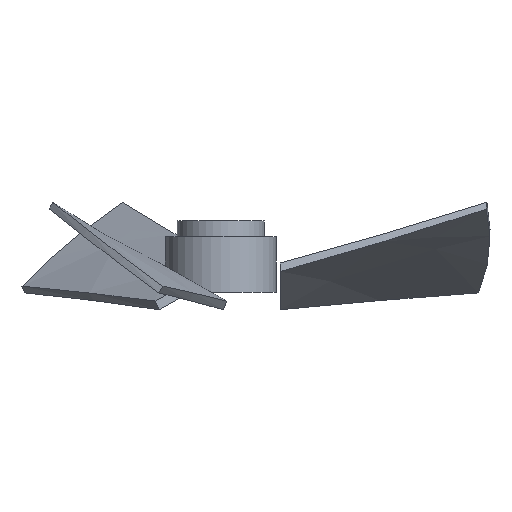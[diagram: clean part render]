
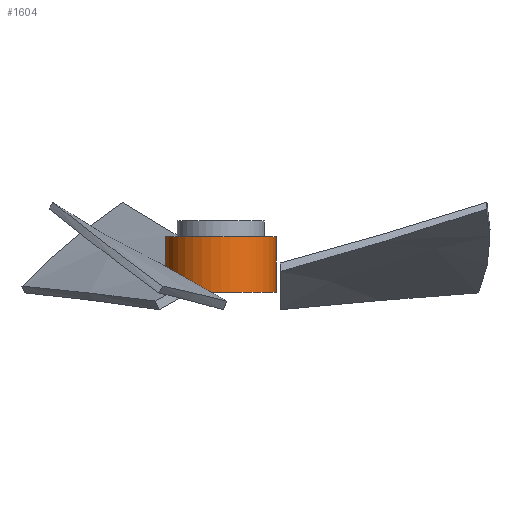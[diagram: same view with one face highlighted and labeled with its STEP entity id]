
A CAD part, front view. The second image highlights one B-rep face of the part: STEP entity #1604.
In plain terms, the highlighted cylindrical face has radius 14 mm (diameter 28 mm), a full revolution.
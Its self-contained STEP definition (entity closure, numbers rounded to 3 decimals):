
#1468 = PLANE('',#1469);
#1469 = AXIS2_PLACEMENT_3D('',#1470,#1471,#1472);
#1470 = CARTESIAN_POINT('',(0.,0.,21.5)
  );
#1471 = DIRECTION('',(0.,0.,1.));
#1472 = DIRECTION('',(1.,0.,0.));
#1557 = PLANE('',#1558);
#1558 = AXIS2_PLACEMENT_3D('',#1559,#1560,#1561);
#1559 = CARTESIAN_POINT('',(0.,0.,7.5)
  );
#1560 = DIRECTION('',(0.,0.,1.));
#1561 = DIRECTION('',(1.,0.,0.));
#1573 = EDGE_CURVE('',#1574,#1574,#1576,.T.);
#1574 = VERTEX_POINT('',#1575);
#1575 = CARTESIAN_POINT('',(14.,0.,7.5));
#1576 = SURFACE_CURVE('',#1577,(#1582,#1589),.PCURVE_S1.);
#1577 = CIRCLE('',#1578,14.);
#1578 = AXIS2_PLACEMENT_3D('',#1579,#1580,#1581);
#1579 = CARTESIAN_POINT('',(0.,0.,7.5));
#1580 = DIRECTION('',(0.,0.,1.));
#1581 = DIRECTION('',(1.,0.,0.));
#1582 = PCURVE('',#1557,#1583);
#1583 = DEFINITIONAL_REPRESENTATION('',(#1584),#1588);
#1584 = CIRCLE('',#1585,14.);
#1585 = AXIS2_PLACEMENT_2D('',#1586,#1587);
#1586 = CARTESIAN_POINT('',(0.,0.));
#1587 = DIRECTION('',(1.,0.));
#1588 = ( GEOMETRIC_REPRESENTATION_CONTEXT(2) 
PARAMETRIC_REPRESENTATION_CONTEXT() REPRESENTATION_CONTEXT('2D SPACE',''
  ) );
#1589 = PCURVE('',#1590,#1595);
#1590 = CYLINDRICAL_SURFACE('',#1591,14.);
#1591 = AXIS2_PLACEMENT_3D('',#1592,#1593,#1594);
#1592 = CARTESIAN_POINT('',(0.,0.,7.5));
#1593 = DIRECTION('',(-0.,-0.,-1.));
#1594 = DIRECTION('',(1.,0.,0.));
#1595 = DEFINITIONAL_REPRESENTATION('',(#1596),#1600);
#1596 = LINE('',#1597,#1598);
#1597 = CARTESIAN_POINT('',(-0.,0.));
#1598 = VECTOR('',#1599,1.);
#1599 = DIRECTION('',(-1.,0.));
#1600 = ( GEOMETRIC_REPRESENTATION_CONTEXT(2) 
PARAMETRIC_REPRESENTATION_CONTEXT() REPRESENTATION_CONTEXT('2D SPACE',''
  ) );
#1604 = ADVANCED_FACE('',(#1605),#1590,.T.);
#1605 = FACE_BOUND('',#1606,.F.);
#1606 = EDGE_LOOP('',(#1607,#1630,#1652,#1653));
#1607 = ORIENTED_EDGE('',*,*,#1608,.T.);
#1608 = EDGE_CURVE('',#1574,#1609,#1611,.T.);
#1609 = VERTEX_POINT('',#1610);
#1610 = CARTESIAN_POINT('',(14.,0.,21.5));
#1611 = SEAM_CURVE('',#1612,(#1616,#1623),.PCURVE_S1.);
#1612 = LINE('',#1613,#1614);
#1613 = CARTESIAN_POINT('',(14.,0.,7.5));
#1614 = VECTOR('',#1615,1.);
#1615 = DIRECTION('',(0.,0.,1.));
#1616 = PCURVE('',#1590,#1617);
#1617 = DEFINITIONAL_REPRESENTATION('',(#1618),#1622);
#1618 = LINE('',#1619,#1620);
#1619 = CARTESIAN_POINT('',(-0.,0.));
#1620 = VECTOR('',#1621,1.);
#1621 = DIRECTION('',(-0.,-1.));
#1622 = ( GEOMETRIC_REPRESENTATION_CONTEXT(2) 
PARAMETRIC_REPRESENTATION_CONTEXT() REPRESENTATION_CONTEXT('2D SPACE',''
  ) );
#1623 = PCURVE('',#1590,#1624);
#1624 = DEFINITIONAL_REPRESENTATION('',(#1625),#1629);
#1625 = LINE('',#1626,#1627);
#1626 = CARTESIAN_POINT('',(-6.283,0.));
#1627 = VECTOR('',#1628,1.);
#1628 = DIRECTION('',(-0.,-1.));
#1629 = ( GEOMETRIC_REPRESENTATION_CONTEXT(2) 
PARAMETRIC_REPRESENTATION_CONTEXT() REPRESENTATION_CONTEXT('2D SPACE',''
  ) );
#1630 = ORIENTED_EDGE('',*,*,#1631,.T.);
#1631 = EDGE_CURVE('',#1609,#1609,#1632,.T.);
#1632 = SURFACE_CURVE('',#1633,(#1638,#1645),.PCURVE_S1.);
#1633 = CIRCLE('',#1634,14.);
#1634 = AXIS2_PLACEMENT_3D('',#1635,#1636,#1637);
#1635 = CARTESIAN_POINT('',(0.,0.,21.5));
#1636 = DIRECTION('',(0.,0.,1.));
#1637 = DIRECTION('',(1.,0.,0.));
#1638 = PCURVE('',#1590,#1639);
#1639 = DEFINITIONAL_REPRESENTATION('',(#1640),#1644);
#1640 = LINE('',#1641,#1642);
#1641 = CARTESIAN_POINT('',(-0.,-14.));
#1642 = VECTOR('',#1643,1.);
#1643 = DIRECTION('',(-1.,0.));
#1644 = ( GEOMETRIC_REPRESENTATION_CONTEXT(2) 
PARAMETRIC_REPRESENTATION_CONTEXT() REPRESENTATION_CONTEXT('2D SPACE',''
  ) );
#1645 = PCURVE('',#1468,#1646);
#1646 = DEFINITIONAL_REPRESENTATION('',(#1647),#1651);
#1647 = CIRCLE('',#1648,14.);
#1648 = AXIS2_PLACEMENT_2D('',#1649,#1650);
#1649 = CARTESIAN_POINT('',(0.,0.));
#1650 = DIRECTION('',(1.,0.));
#1651 = ( GEOMETRIC_REPRESENTATION_CONTEXT(2) 
PARAMETRIC_REPRESENTATION_CONTEXT() REPRESENTATION_CONTEXT('2D SPACE',''
  ) );
#1652 = ORIENTED_EDGE('',*,*,#1608,.F.);
#1653 = ORIENTED_EDGE('',*,*,#1573,.F.);
